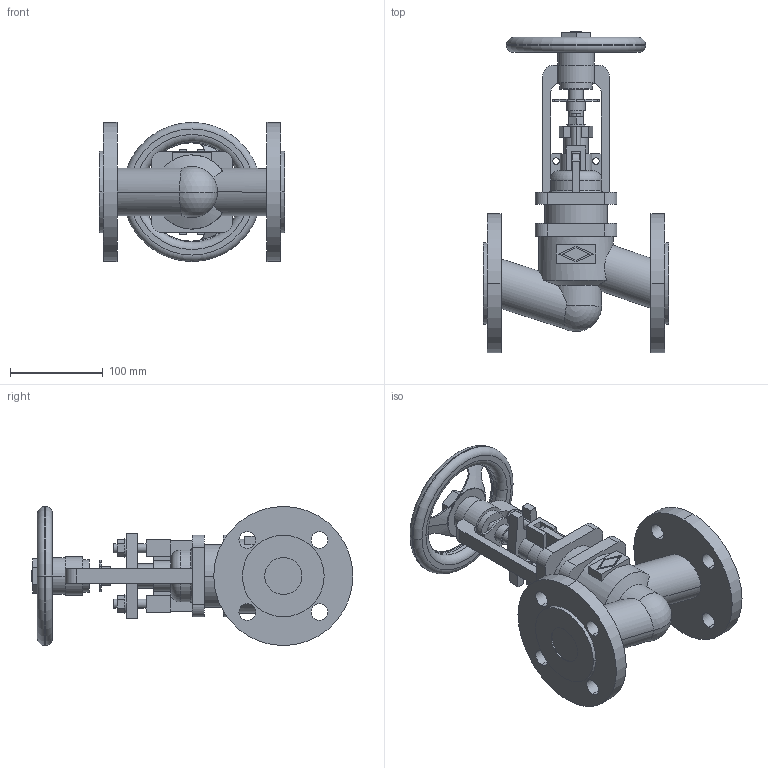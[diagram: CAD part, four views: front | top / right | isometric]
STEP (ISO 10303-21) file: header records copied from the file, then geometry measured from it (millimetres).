
FILE_DESCRIPTION(('OneSpaceDesigner STEP Export'),'2;1');
FILE_NAME('c000003728.stp','2009-06-15T12:37:42',(''),(''),'OneSpace Designer STEP processor for AP214 (Solid Model)','OneSpace Modeling 15.50B 03-Nov-2007 (C) CoCreate Software GmbH','');
FILE_SCHEMA(('AUTOMOTIVE_DESIGN { 1 0 10303 214 1 1 1 1 }'));
Length unit declared in the file: millimetre
Products named in the file (1): 1
Bounding box: 200 x 346.9 x 150 mm (x, y, z)
Volume: 1796303.6 mm3; surface area: 241080.4 mm2
Topology: 1 solids, 1 shells, 285 faces, 764 edges, 503 vertices
Faces by surface type: plane 140, cylinder 117, torus 18, cone 8, sphere 2
Entity records: 11492 total; most frequent: CARTESIAN_POINT 2400, ORIENTED_EDGE 1516, DIRECTION 1269, EDGE_CURVE 758, VERTEX_POINT 499, AXIS2_PLACEMENT_3D 429, VECTOR 411, LINE 411
